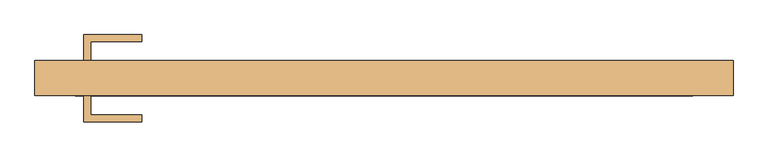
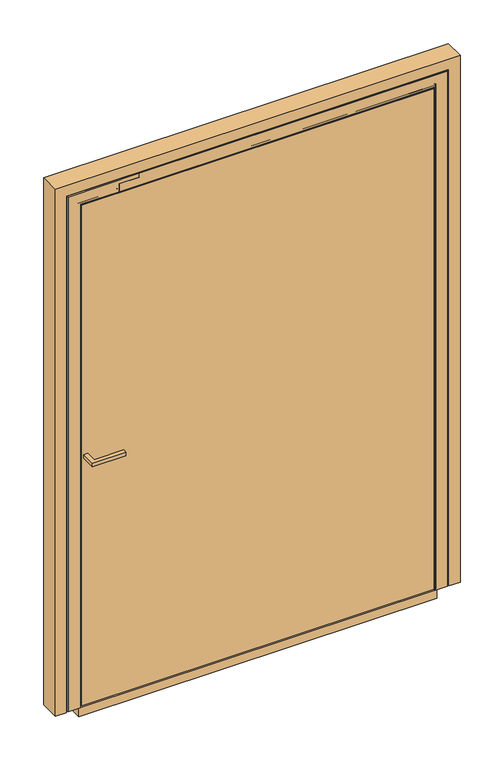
"""IFC4 building model written with IfcOpenShell, lengths in millimetres: door geometry, Reynaers_MasterLine 8_Door_Pivot_Inward Opening_Single Vent_Panel : Reynaers_MasterLine 8_Door_Pivot_Inward Opening_Single Vent_Panel."""

from ifc_helpers import new_model, si_unit, frame, origin, origin_with_axes, place, context, project, spatial, polyline, circle_curve, ellipse_curve, outline, extrude, faceted_brep, source, transform, mapped, element, save
from ifc_brep_helpers import plane_surface, revolved_surface, advanced_brep


def door_09428479(model_context):
    return source(origin(), model_context, "Body", "SolidModel", [
        extrude(outline(polyline([(-662.0, 27.0), (-662.0, 84.5), (-534.5, 84.5), (-534.5, 69.5), (-647.0, 69.5), (-647.0, 27.0), (-662.0, 27.0)])), frame((0.0, 0.0, 1000.0), z_axis=(0.0, 0.0, 1.0), x_axis=(1.0, 0.0, 0.0)), (0.0, 0.0, 1.0), 15.0),
        extrude(outline(polyline([(-662.0, -50.0), (-647.0, -50.0), (-647.0, -92.5), (-534.5, -92.5), (-534.5, -107.5), (-662.0, -107.5), (-662.0, -50.0)])), frame((0.0, 0.0, 1000.0), z_axis=(0.0, 0.0, 1.0), x_axis=(1.0, 0.0, 0.0)), (0.0, 0.0, 1.0), 15.0),
        extrude(outline(polyline([(-680.5, -7.9556368), (-680.5, 16.0443635), (680.5, 16.0443635), (680.5, -7.9556368), (-680.5, -7.9556368)])), origin_with_axes(), (0.0, 0.0, 1.0), 29.0),
        advanced_brep(
        [(-527.0, -49.9998135, 2056.5000055), (-527.0, 18.2000028, 2056.5000055), (-527.0, 18.2000028, 2030.5), (-527.0, -40.0850084, 2030.5), (-527.0, -41.2, 2027.6677934), (-527.0, -41.2, 2025.5000055), (-527.0, -49.9998135, 2025.5000055), (721.5, -49.9998135, 0.0), (675.5000055, -49.9998135, 0.0), (675.5000055, -41.2, 0.0), (677.6677934, -41.2, 0.0), (680.5, -40.0850084, 0.0), (680.5, 18.2000028, 0.0), (706.5000055, 18.2000028, 0.0), (706.5000055, -46.2008135, 0.0), (721.5, -46.2008135, 0.0), (721.5, -49.9998135, 2071.5), (721.5, -46.2008135, 2071.5), (-450.0, -46.2008135, 2071.5), (-450.0, -49.9998135, 2071.5), (706.5000055, -46.2008135, 2056.5000055), (-450.0, -46.2008135, 2056.5000055), (-450.0, -49.9998135, 2056.5000055), (706.5000055, 18.2000028, 2056.5000055), (680.5, 18.2000028, 2030.5), (680.5, -40.0850084, 2030.5), (677.6677934, -41.2, 2027.6677934), (675.5000055, -41.2, 2025.5000055), (675.5000055, -49.9998135, 2025.5000055)],
        [
            (0, 1),
            (1, 2),
            (2, 3),
            (3, 4, circle_curve(frame((-527.0, -41.7014065, 2029.5007685), z_axis=(1.0, 0.0, 0.0), x_axis=(0.0, 0.0, -1.0)), 1.9003175)),
            (4, 5),
            (5, 6),
            (6, 0),
            (7, 8),
            (8, 9),
            (9, 10),
            (10, 11, circle_curve(frame((679.5007685, -41.7014065, 0.0), z_axis=(0.0, 0.0, 1.0), x_axis=(-1.0, 0.0, 0.0)), 1.9003175)),
            (11, 12),
            (12, 13),
            (13, 14),
            (14, 15),
            (15, 7),
            (16, 17),
            (17, 18),
            (18, 19),
            (19, 16),
            (14, 20),
            (20, 21),
            (21, 18),
            (17, 15),
            (0, 22),
            (22, 21),
            (20, 23),
            (23, 1),
            (23, 13),
            (12, 24),
            (24, 2),
            (24, 25),
            (25, 3),
            (25, 26, ellipse_curve(frame((679.5007685, -41.7014065, 2029.5007685), z_axis=(0.7071067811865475, 0.0, -0.7071067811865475), x_axis=(0.7071067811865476, 0.0, 0.7071067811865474)), 2.6874548, 1.9003175)),
            (26, 4),
            (26, 10),
            (9, 27),
            (27, 5),
            (27, 28),
            (28, 6),
            (7, 16),
            (19, 22),
            (28, 8),
            (11, 25),
        ],
        [
            plane_surface(frame((-527.0, -50.0, 2019.5), z_axis=(-1.0, 0.0, 0.0), x_axis=(0.0, 1.0, 0.0))),
            plane_surface(frame((669.5, -50.0, 0.0), z_axis=(0.0, 0.0, -1.0), x_axis=(0.0, 1.0, 0.0))),
            plane_surface(frame((-527.0, -49.9998135, 2071.5), z_axis=(0.0, 0.0, 1.0), x_axis=(1.0, 0.0, 0.0))),
            plane_surface(frame((-527.0, -46.2008135, 2071.5), z_axis=(0.0, 1.0, 0.0), x_axis=(1.0, 0.0, 0.0))),
            plane_surface(frame((-527.0, -46.2008135, 2056.5000055), z_axis=(0.0, 0.0, 1.0), x_axis=(1.0, 0.0, 0.0))),
            plane_surface(frame((-527.0, 18.2000028, 2056.5000055), z_axis=(0.0, 1.0, 0.0), x_axis=(1.0, 0.0, 0.0))),
            plane_surface(frame((-527.0, 18.2000028, 2030.5), z_axis=(0.0, 0.0, -1.0), x_axis=(1.0, 0.0, 0.0))),
            revolved_surface(polyline([(681.4010860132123, -41.7014065, 2027.600451), (-527.0, -41.7014065, 2027.600451)]), (-527.0, -41.7014065, 2029.5007685), (1.0, 0.0, 0.0)),
            plane_surface(frame((-527.0, -41.2, 2027.6677934), z_axis=(0.0, 1.0, 0.0), x_axis=(1.0, 0.0, 0.0))),
            plane_surface(frame((-527.0, -41.2, 2025.5000055), z_axis=(0.0, 0.0, -1.0), x_axis=(1.0, 0.0, 0.0))),
            plane_surface(frame((-527.0, -49.9998135, 2025.5000055), z_axis=(0.0, -1.0, 0.0), x_axis=(1.0, 0.0, 0.0))),
            plane_surface(frame((721.5, -49.9998135, 2071.5), z_axis=(1.0, 0.0, 0.0), x_axis=(0.0, 0.0, -1.0))),
            plane_surface(frame((706.5000055, -46.2008135, 2056.5000055), z_axis=(1.0, 0.0, 0.0), x_axis=(0.0, 0.0, -1.0))),
            plane_surface(frame((680.5, 18.2000028, 2030.5), z_axis=(-1.0, 0.0, 0.0), x_axis=(0.0, 0.0, -1.0))),
            revolved_surface(polyline([(677.600451, -41.7014065, 0.0), (677.600451, -41.7014065, 2031.4010860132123)]), (679.5007685, -41.7014065, 2019.5), (0.0, 0.0, -1.0)),
            plane_surface(frame((675.5000055, -41.2, 2025.5000055), z_axis=(-1.0, 0.0, 0.0), x_axis=(0.0, 0.0, -1.0))),
            plane_surface(frame((-450.0, -50.0, 2019.5), z_axis=(-1.0, 0.0, 0.0), x_axis=(0.0, 1.0, 0.0))),
        ],
        [
            (0, [[1, 2, 3, 4, 5, 6, 7]]),
            (1, [[8, 9, 10, 11, 12, 13, 14, 15, 16]]),
            (2, [[17, 18, 19, 20]]),
            (3, [[-15, 21, 22, 23, -18, 24]]),
            (4, [[25, 26, -22, 27, 28, -1]]),
            (5, [[-2, -28, 29, -13, 30, 31]]),
            (6, [[-3, -31, 32, 33]]),
            (7, [[-4, -33, 34, 35]]),
            (8, [[-5, -35, 36, -10, 37, 38]]),
            (9, [[-6, -38, 39, 40]]),
            (10, [[-8, 41, -20, 42, -25, -7, -40, 43]]),
            (11, [[-16, -24, -17, -41]]),
            (12, [[-14, -29, -27, -21]]),
            (13, [[-12, 44, -32, -30]]),
            (14, [[-11, -36, -34, -44]]),
            (15, [[-9, -43, -39, -37]]),
            (16, [[-26, -42, -19, -23]]),
        ],
    ),
        advanced_brep(
        [(-721.5, -49.9998135, 0.0), (-721.5, -46.2008135, 0.0), (-706.5000055, -46.2008135, 0.0), (-706.5000055, 18.2000028, 0.0), (-680.5, 18.2000028, 0.0), (-680.5, -40.0850084, 0.0), (-677.6677934, -41.2, 0.0), (-675.5000055, -41.2, 0.0), (-675.5000055, -49.9998135, 0.0), (-450.0, -46.2008135, 2056.5000055), (-450.0, -46.2008135, 2071.5), (-450.0, -49.9998135, 2071.5), (-450.0, -49.9998135, 2056.5000055), (-721.5, -46.2008135, 2071.5), (-721.5, -49.9998135, 2071.5), (-706.5000055, 18.2000028, 2056.5000055), (-706.5000055, -46.2008135, 2056.5000055), (-527.0, -46.2008135, 2056.5000055), (-527.0, 18.2000028, 2056.5000055), (-680.5, -40.0850084, 2030.5), (-680.5, 18.2000028, 2030.5), (-527.0, 18.2000028, 2030.5), (-527.0, -40.0850084, 2030.5), (-677.6677934, -41.2, 2027.6677934), (-527.0, -41.2, 2027.6677934), (-675.5000055, -49.9998135, 2025.5000055), (-675.5000055, -41.2, 2025.5000055), (-527.0, -41.2, 2025.5000055), (-527.0, -49.9998135, 2025.5000055), (-527.0, -49.9998135, 2056.5000055)],
        [
            (0, 1),
            (1, 2),
            (2, 3),
            (3, 4),
            (4, 5),
            (5, 6, circle_curve(frame((-679.5007685, -41.7014065, 0.0), z_axis=(0.0, 0.0, 1.0), x_axis=(1.0, 0.0, 0.0)), 1.9003175)),
            (6, 7),
            (7, 8),
            (8, 0),
            (9, 10),
            (10, 11),
            (11, 12),
            (12, 9),
            (10, 13),
            (13, 14),
            (14, 11),
            (15, 16),
            (16, 17),
            (17, 18),
            (18, 15),
            (19, 20),
            (20, 21),
            (21, 22),
            (22, 19),
            (23, 19, ellipse_curve(frame((-679.5007685, -41.7014065, 2029.5007685), z_axis=(-0.7071067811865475, 0.0, -0.7071067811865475), x_axis=(0.7071067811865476, 0.0, -0.7071067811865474)), 2.6874548, 1.9003175)),
            (22, 24, circle_curve(frame((-527.0, -41.7014065, 2029.5007685), z_axis=(1.0, 0.0, 0.0), x_axis=(0.0, 0.0, -1.0)), 1.9003175)),
            (24, 23),
            (25, 26),
            (26, 27),
            (27, 28),
            (28, 25),
            (0, 14),
            (13, 1),
            (9, 17),
            (16, 2),
            (15, 3),
            (18, 21),
            (20, 4),
            (19, 5),
            (23, 6),
            (24, 27),
            (26, 7),
            (25, 8),
            (28, 29),
            (29, 12),
            (17, 29),
        ],
        [
            plane_surface(frame((-669.5, -50.0, 0.0), z_axis=(0.0, 0.0, -1.0), x_axis=(0.0, 1.0, 0.0))),
            plane_surface(frame((-450.0, -50.0, 2019.5), z_axis=(1.0, 0.0, 0.0), x_axis=(0.0, 1.0, 0.0))),
            plane_surface(frame((-721.5, -49.9998135, 2071.5), z_axis=(0.0, 0.0, 1.0), x_axis=(1.0, 0.0, 0.0))),
            plane_surface(frame((-706.5000055, -46.2008135, 2056.5000055), z_axis=(0.0, 0.0, 1.0), x_axis=(1.0, 0.0, 0.0))),
            plane_surface(frame((-680.5, 18.2000028, 2030.5), z_axis=(0.0, 0.0, -1.0), x_axis=(1.0, 0.0, 0.0))),
            revolved_surface(polyline([(-527.0, -41.7014065, 2027.600451), (-681.4010860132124, -41.7014065, 2027.600451)]), (-669.5, -41.7014065, 2029.5007685), (1.0, 0.0, 0.0)),
            plane_surface(frame((-675.5000055, -41.2, 2025.5000055), z_axis=(0.0, 0.0, -1.0), x_axis=(1.0, 0.0, 0.0))),
            plane_surface(frame((-721.5, -49.9998135, 0.0), z_axis=(-1.0, 0.0, 0.0), x_axis=(0.0, 0.0, 1.0))),
            plane_surface(frame((-721.5, -46.2008135, 0.0), z_axis=(0.0, 1.0, 0.0), x_axis=(0.0, 0.0, 1.0))),
            plane_surface(frame((-706.5000055, -46.2008135, 0.0), z_axis=(-1.0, 0.0, 0.0), x_axis=(0.0, 0.0, 1.0))),
            plane_surface(frame((-706.5000055, 18.2000028, 0.0), z_axis=(0.0, 1.0, 0.0), x_axis=(0.0, 0.0, 1.0))),
            plane_surface(frame((-680.5, 18.2000028, 0.0), z_axis=(1.0, 0.0, 0.0), x_axis=(0.0, 0.0, 1.0))),
            revolved_surface(polyline([(-677.600451, -41.7014065, 2031.4010860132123), (-677.600451, -41.7014065, 0.0)]), (-679.5007685, -41.7014065, 0.0), (0.0, 0.0, 1.0)),
            plane_surface(frame((-677.6677934, -41.2, 0.0), z_axis=(0.0, 1.0, 0.0), x_axis=(0.0, 0.0, 1.0))),
            plane_surface(frame((-675.5000055, -41.2, 0.0), z_axis=(1.0, 0.0, 0.0), x_axis=(0.0, 0.0, 1.0))),
            plane_surface(frame((-675.5000055, -49.9998135, 0.0), z_axis=(0.0, -1.0, 0.0), x_axis=(0.0, 0.0, 1.0))),
            plane_surface(frame((-527.0, -50.0, 2019.5), z_axis=(1.0, 0.0, 0.0), x_axis=(0.0, 1.0, 0.0))),
            plane_surface(frame((-527.0, -49.9998135, 2056.5000055), z_axis=(0.0, 0.0, -1.0), x_axis=(1.0, 0.0, 0.0))),
        ],
        [
            (0, [[1, 2, 3, 4, 5, 6, 7, 8, 9]]),
            (1, [[10, 11, 12, 13]]),
            (2, [[-11, 14, 15, 16]]),
            (3, [[17, 18, 19, 20]]),
            (4, [[21, 22, 23, 24]]),
            (5, [[25, -24, 26, 27]]),
            (6, [[28, 29, 30, 31]]),
            (7, [[-1, 32, -15, 33]]),
            (8, [[-2, -33, -14, -10, 34, -18, 35]]),
            (9, [[-3, -35, -17, 36]]),
            (10, [[-4, -36, -20, 37, -22, 38]]),
            (11, [[-5, -38, -21, 39]]),
            (12, [[-6, -39, -25, 40]]),
            (13, [[-7, -40, -27, 41, -29, 42]]),
            (14, [[-8, -42, -28, 43]]),
            (15, [[-9, -43, -31, 44, 45, -12, -16, -32]]),
            (16, [[46, -44, -30, -41, -26, -23, -37, -19]]),
            (17, [[-46, -34, -13, -45]]),
        ],
    ),
        extrude(outline(polyline([(-50.0, 0.0), (18.1943844, 0.0), (18.1943844, -10.0), (27.0, -10.0), (27.0, -33.0), (-50.0, -33.0), (-50.0, 0.0)])), frame((-680.5, 0.0, 0.0), z_axis=(1.0, 0.0, 0.0), x_axis=(0.0, 1.0, 0.0)), (0.0, 0.0, 1.0), 1361.0),
        faceted_brep([(-701.5, 23.2001836, 0.0), (-716.5, 23.2001836, 0.0), (-716.5, -41.2, 0.0), (-727.5, -41.2, 0.0), (-727.5, -50.0, 0.0), (-770.0, -50.0, 0.0), (-770.0, 27.0, 0.0), (-701.5, 27.0, 0.0), (-701.5, 23.2001836, 2051.5), (701.5, 23.2001836, 2051.5), (701.5, 23.2001836, 0.0), (716.5, 23.2001836, 0.0), (716.5, 23.2001836, 2066.5), (-716.5, 23.2001836, 2066.5), (-770.0, -50.0, 2120.0), (-770.0, 27.0, 2120.0), (770.0, 27.0, 2120.0), (770.0, 27.0, 0.0), (701.5, 27.0, 0.0), (701.5, 27.0, 2051.5), (-701.5, 27.0, 2051.5), (770.0, -50.0, 2120.0), (770.0, -50.0, 0.0), (727.5, -50.0, 0.0), (727.5, -41.2, 0.0), (716.5, -41.2, 0.0), (-716.5, -41.2, 2066.5), (-727.5, -50.0, 2077.5), (727.5, -50.0, 2077.5), (716.5, -41.2, 2066.5), (727.5, -41.2, 2077.5), (-727.5, -41.2, 2077.5)], [[[0, 1, 2, 3, 4, 5, 6, 7]], [[1, 0, 8, 9, 10, 11, 12, 13]], [[6, 5, 14, 15]], [[7, 6, 15, 16, 17, 18, 19, 20]], [[0, 7, 20, 8]], [[15, 14, 21, 16]], [[8, 20, 19, 9]], [[10, 18, 17, 22, 23, 24, 25, 11]], [[16, 21, 22, 17]], [[9, 19, 18, 10]], [[2, 1, 13, 26]], [[5, 4, 27, 28, 23, 22, 21, 14]], [[26, 13, 12, 29]], [[29, 12, 11, 25]], [[3, 2, 26, 29, 25, 24, 30, 31]], [[4, 3, 31, 27]], [[27, 31, 30, 28]], [[28, 30, 24, 23]]]),
        faceted_brep([(-618.0, -47.0, 1968.0), (-618.0, 24.0, 1968.0), (618.0, 24.0, 1968.0), (618.0, -47.0, 1968.0), (-669.5, -41.2, 2019.5), (-669.5, -47.0, 2019.5), (669.5, -47.0, 2019.5), (669.5, -41.2, 2019.5), (618.0, 24.0, 91.5), (618.0, -47.0, 91.5), (669.5, -47.0, 40.0), (669.5, -41.2, 40.0), (-618.0, 24.0, 91.5), (-618.0, -47.0, 91.5), (-669.5, -47.0, 40.0), (-669.5, -41.2, 40.0), (-680.5, -41.2, 2030.5), (-680.5, -41.2, 29.0), (680.5, -41.2, 29.0), (680.5, -41.2, 2030.5), (-680.5, 18.2001837, 2030.5), (680.5, 18.2001837, 2030.5), (-669.5, 24.0, 2019.5), (-669.5, 18.2001837, 2019.5), (669.5, 18.2001837, 2019.5), (669.5, 24.0, 2019.5), (680.5, 18.2001837, 29.0), (669.5, 18.2001837, 40.0), (669.5, 24.0, 40.0), (-680.5, 18.2001837, 29.0), (-669.5, 18.2001837, 40.0), (-669.5, 24.0, 40.0)], [[[0, 1, 2, 3]], [[4, 5, 6, 7]], [[3, 2, 8, 9]], [[7, 6, 10, 11]], [[9, 8, 12, 13]], [[11, 10, 14, 15]], [[13, 12, 1, 0]], [[5, 14, 10, 6], [3, 9, 13, 0]], [[15, 14, 5, 4]], [[16, 17, 18, 19], [7, 11, 15, 4]], [[20, 16, 19, 21]], [[22, 23, 24, 25]], [[21, 19, 18, 26]], [[25, 24, 27, 28]], [[26, 18, 17, 29]], [[28, 27, 30, 31]], [[29, 17, 16, 20]], [[21, 26, 29, 20], [23, 30, 27, 24]], [[31, 30, 23, 22]], [[25, 28, 31, 22], [1, 12, 8, 2]]]),
        extrude(outline(polyline([(695.5, 27.0), (695.5, 24.0), (-695.5, 24.0), (-695.5, 27.0), (695.5, 27.0)])), frame((0.0, 0.0, 7.0), z_axis=(0.0, 0.0, 1.0), x_axis=(1.0, 0.0, 0.0)), (0.0, 0.0, 1.0), 2038.5),
        extrude(outline(polyline([(669.5, -47.0), (669.5, -50.0), (-669.5, -50.0), (-669.5, -47.0), (669.5, -47.0)])), frame((0.0, 0.0, 7.0), z_axis=(0.0, 0.0, 1.0), x_axis=(1.0, 0.0, 0.0)), (0.0, 0.0, 1.0), 2012.5),
        extrude(outline(polyline([(613.0, -47.0), (-613.0, -47.0), (-613.0, 24.0), (613.0, 24.0), (613.0, -47.0)])), frame((0.0, 0.0, 96.5), z_axis=(0.0, 0.0, 1.0), x_axis=(1.0, 0.0, 0.0)), (0.0, 0.0, 1.0), 1866.5),
    ])


if __name__ == "__main__":
    model = new_model("IFC4")
    model_context = context("Model", 3, world=origin())
    ifc_project = project(units=[si_unit("LENGTHUNIT", "METRE", prefix="MILLI")], contexts=[model_context])
    site = spatial("IfcSite", under=ifc_project)
    building = spatial("IfcBuilding", under=site)
    placement = place(None, origin())
    door_shape = door_09428479(model_context)
    element("IfcDoor", 1, ObjectType="Reynaers_MasterLine 8_Door_Pivot_Inward Opening_Single Vent_Panel : Reynaers_MasterLine 8_Door_Pivot_Inward Opening_Single Vent_Panel", at=placement, inside=building, context=model_context, shape_type="MappedRepresentation", body=[
        mapped(door_shape, transform((0.0, 0.0, 0.0), x_axis=(1.0, 0.0, 0.0), y_axis=(0.0, 1.0, 0.0), z_axis=(0.0, 0.0, 1.0))),
    ])
    save(model, "model.ifc")
